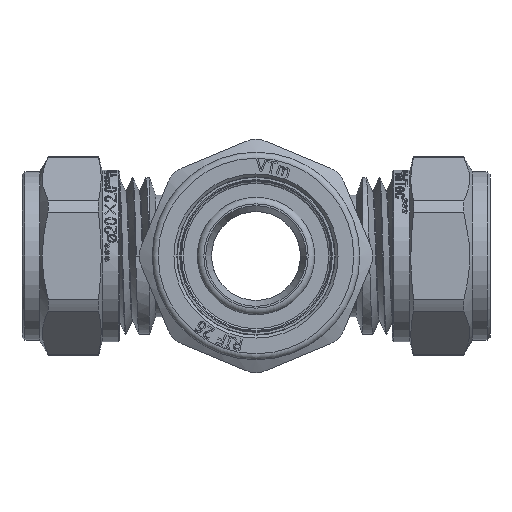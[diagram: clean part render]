
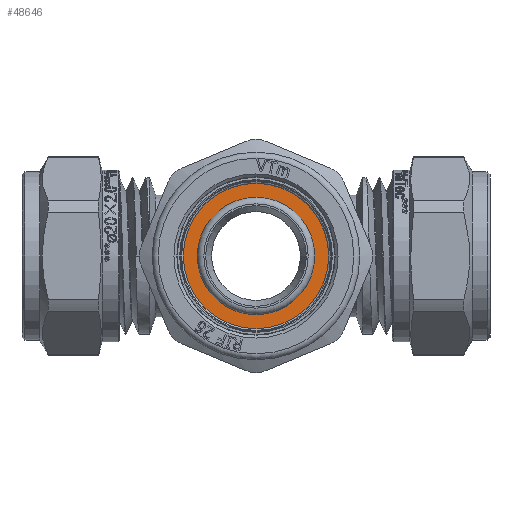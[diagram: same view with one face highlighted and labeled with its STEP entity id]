
A CAD part, left-side view. The second image highlights one B-rep face of the part: STEP entity #48646.
In plain terms, the highlighted planar face has unit normal (-1, 0, 0).
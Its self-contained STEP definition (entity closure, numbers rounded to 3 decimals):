
#340=FACE_BOUND('',#7455,.T.);
#2479=PLANE('',#51011);
#4620=FACE_OUTER_BOUND('',#7454,.T.);
#7454=EDGE_LOOP('',(#42390,#42391));
#7455=EDGE_LOOP('',(#42392,#42393));
#8969=CIRCLE('',#51009,9.9);
#8970=CIRCLE('',#51010,9.9);
#8971=CIRCLE('',#51012,13.1);
#8972=CIRCLE('',#51013,13.1);
#22536=VERTEX_POINT('',#98627);
#22537=VERTEX_POINT('',#98628);
#22538=VERTEX_POINT('',#98633);
#22539=VERTEX_POINT('',#98634);
#29394=EDGE_CURVE('',#22536,#22537,#8969,.T.);
#29395=EDGE_CURVE('',#22537,#22536,#8970,.T.);
#29397=EDGE_CURVE('',#22538,#22539,#8971,.T.);
#29398=EDGE_CURVE('',#22539,#22538,#8972,.T.);
#42390=ORIENTED_EDGE('',*,*,#29397,.F.);
#42391=ORIENTED_EDGE('',*,*,#29398,.F.);
#42392=ORIENTED_EDGE('',*,*,#29394,.T.);
#42393=ORIENTED_EDGE('',*,*,#29395,.T.);
#48646=ADVANCED_FACE('',(#4620,#340),#2479,.T.);
#51009=AXIS2_PLACEMENT_3D('',#98629,#57449,#57450);
#51010=AXIS2_PLACEMENT_3D('',#98630,#57451,#57452);
#51011=AXIS2_PLACEMENT_3D('',#98632,#57454,#57455);
#51012=AXIS2_PLACEMENT_3D('',#98635,#57456,#57457);
#51013=AXIS2_PLACEMENT_3D('',#98636,#57458,#57459);
#57449=DIRECTION('center_axis',(1.,0.,0.));
#57450=DIRECTION('ref_axis',(0.,0.,1.));
#57451=DIRECTION('center_axis',(1.,0.,0.));
#57452=DIRECTION('ref_axis',(0.,0.,1.));
#57454=DIRECTION('center_axis',(-1.,0.,0.));
#57455=DIRECTION('ref_axis',(0.,0.,-1.));
#57456=DIRECTION('center_axis',(1.,0.,0.));
#57457=DIRECTION('ref_axis',(0.,0.,1.));
#57458=DIRECTION('center_axis',(1.,0.,0.));
#57459=DIRECTION('ref_axis',(0.,0.,1.));
#98627=CARTESIAN_POINT('',(-22.,9.9,0.));
#98628=CARTESIAN_POINT('',(-22.,-9.9,0.));
#98629=CARTESIAN_POINT('Origin',(-22.,0.,0.));
#98630=CARTESIAN_POINT('Origin',(-22.,0.,0.));
#98632=CARTESIAN_POINT('Origin',(-22.,13.1,0.));
#98633=CARTESIAN_POINT('',(-22.,13.1,0.));
#98634=CARTESIAN_POINT('',(-22.,-13.1,0.));
#98635=CARTESIAN_POINT('Origin',(-22.,0.,0.));
#98636=CARTESIAN_POINT('Origin',(-22.,0.,0.));
